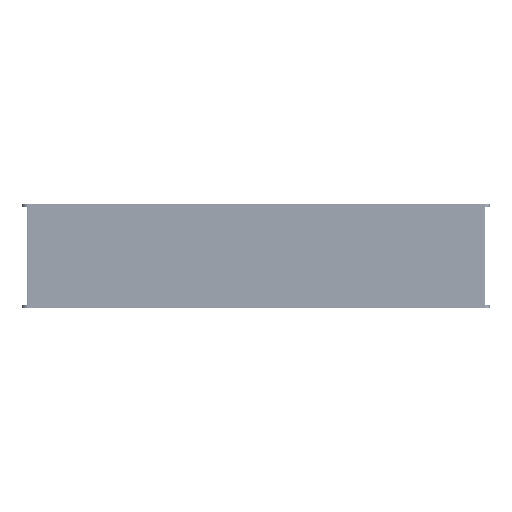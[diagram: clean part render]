
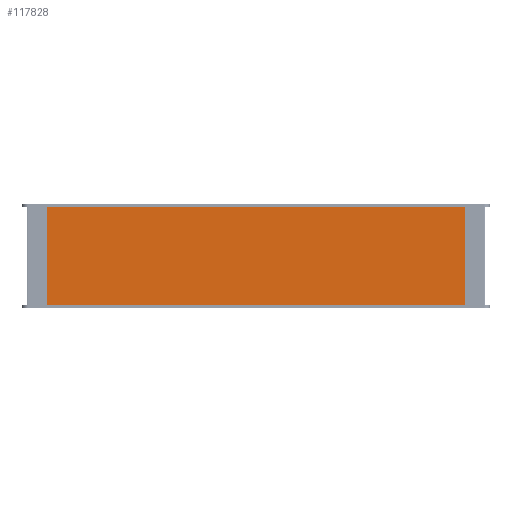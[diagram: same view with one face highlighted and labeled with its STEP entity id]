
A CAD part, left-side view. The second image highlights one B-rep face of the part: STEP entity #117828.
In plain terms, the highlighted planar face has unit normal (-1, 0, 0).
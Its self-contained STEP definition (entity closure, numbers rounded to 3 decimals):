
#421 = DIRECTION ( 'NONE',  ( 1., 0., 0. ) ) ;
#684 = CARTESIAN_POINT ( 'NONE',  ( -875.983, -398.14, 58.955 ) ) ;
#851 = EDGE_CURVE ( 'NONE', #124783, #123871, #116491, .T. ) ;
#2350 = CARTESIAN_POINT ( 'NONE',  ( -875.983, -398.14, 58.955 ) ) ;
#5302 = VECTOR ( 'NONE', #138684, 1000. ) ;
#7787 = EDGE_CURVE ( 'NONE', #36625, #135343, #69641, .T. ) ;
#16543 = EDGE_CURVE ( 'NONE', #135343, #124783, #27481, .T. ) ;
#18424 = CARTESIAN_POINT ( 'NONE',  ( -875.983, 467.86, 58.955 ) ) ;
#22436 = CARTESIAN_POINT ( 'NONE',  ( -875.983, 34.86, -36.045 ) ) ;
#27481 = LINE ( 'NONE', #18424, #145365 ) ;
#30926 = DIRECTION ( 'NONE',  ( 0., 0., -1. ) ) ;
#31357 = CARTESIAN_POINT ( 'NONE',  ( -875.983, 467.86, 58.955 ) ) ;
#33893 = PLANE ( 'NONE',  #44559 ) ;
#36625 = VERTEX_POINT ( 'NONE', #684 ) ;
#38671 = ORIENTED_EDGE ( 'NONE', *, *, #16543, .T. ) ;
#41700 = CARTESIAN_POINT ( 'NONE',  ( -875.983, -398.14, -131.045 ) ) ;
#41730 = ORIENTED_EDGE ( 'NONE', *, *, #145189, .T. ) ;
#43968 = DIRECTION ( 'NONE',  ( 0., 0., 1. ) ) ;
#44559 = AXIS2_PLACEMENT_3D ( 'NONE', #22436, #421, #58279 ) ;
#55953 = ORIENTED_EDGE ( 'NONE', *, *, #7787, .T. ) ;
#58156 = CARTESIAN_POINT ( 'NONE',  ( -875.983, 467.86, -131.045 ) ) ;
#58279 = DIRECTION ( 'NONE',  ( 0., -1., 0. ) ) ;
#63171 = LINE ( 'NONE', #78974, #138305 ) ;
#66792 = ORIENTED_EDGE ( 'NONE', *, *, #851, .T. ) ;
#69641 = LINE ( 'NONE', #2350, #5302 ) ;
#74970 = EDGE_LOOP ( 'NONE', ( #38671, #66792, #41730, #55953 ) ) ;
#78974 = CARTESIAN_POINT ( 'NONE',  ( -875.983, -398.14, 58.955 ) ) ;
#91346 = VECTOR ( 'NONE', #124323, 1000. ) ;
#115626 = FACE_OUTER_BOUND ( 'NONE', #74970, .T. ) ;
#116491 = LINE ( 'NONE', #124810, #91346 ) ;
#117828 = ADVANCED_FACE ( 'NONE', ( #115626 ), #33893, .F. ) ;
#123871 = VERTEX_POINT ( 'NONE', #41700 ) ;
#124323 = DIRECTION ( 'NONE',  ( 0., -1., 0. ) ) ;
#124783 = VERTEX_POINT ( 'NONE', #58156 ) ;
#124810 = CARTESIAN_POINT ( 'NONE',  ( -875.983, -398.14, -131.045 ) ) ;
#135343 = VERTEX_POINT ( 'NONE', #31357 ) ;
#138305 = VECTOR ( 'NONE', #43968, 1000. ) ;
#138684 = DIRECTION ( 'NONE',  ( 0., 1., 0. ) ) ;
#145189 = EDGE_CURVE ( 'NONE', #123871, #36625, #63171, .T. ) ;
#145365 = VECTOR ( 'NONE', #30926, 1000. ) ;
